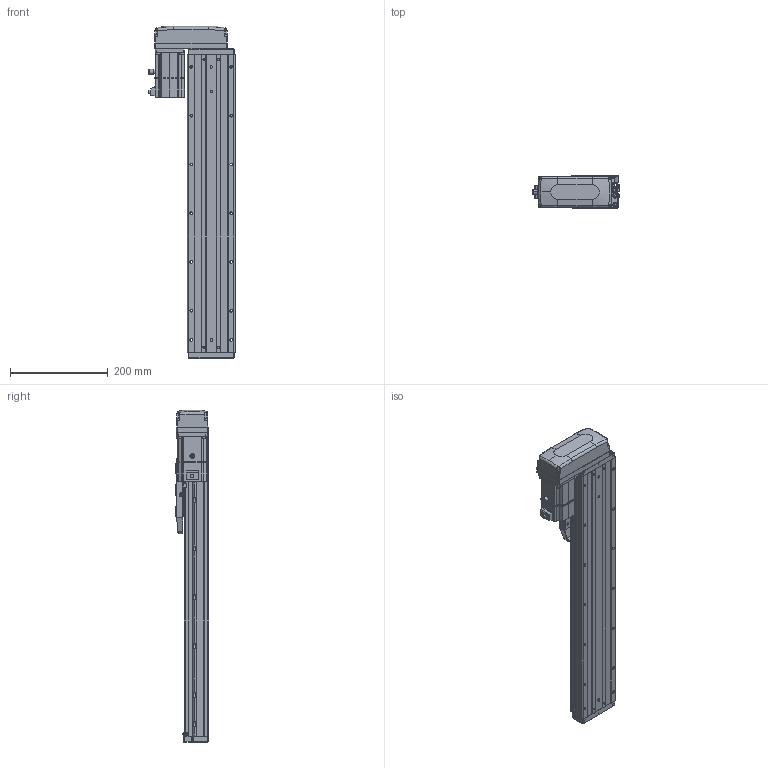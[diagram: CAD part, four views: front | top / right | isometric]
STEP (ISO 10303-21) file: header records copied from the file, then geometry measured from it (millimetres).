
FILE_DESCRIPTION (( 'STEP AP203' ), '1' );
FILE_NAME ('CTHA100-400-BL-M20-C4L.step', '2022-07-06T09:08:34', ( '微软用户' ), ( '微软中国' ), 'SwSTEP 2.0', 'SolidWorks 2020', '' );
FILE_SCHEMA (( 'CONFIG_CONTROL_DESIGN' ));
Length unit declared in the file: millimetre
Products named in the file (19): CTHA100-002; CTHA60-021; CTHA100-031; GBT77-2000 M3×3; CTHA86-030; KTHA100-001_610; KTHA100-004; GBT 70.1-M3℅6; GBT 70.3-M3℅6; KTHA100-005; GBT70.1 M5℅16; CTHA86-015-1_CTHA86-015-2; GB¨uT 70.2-M3¡Á5_M3¡Á6; CTHA60-016; CTHA86-033; EE_SX911P_R; _X2_4E0983F1_X0_200W_1; CTHA100-400-BL-M20-C4L; CTHA60-017
Assembly tree (64 placements, depth 2):
  CTHA100-400-BL-M20-C4L
    KTHA100-001_610
    KTHA100-004
    KTHA100-005
    GB¨uT 70.2-M3¡Á5_M3¡Á6  x10
    EE_SX911P_R  x3
    CTHA60-017  x3
    CTHA60-021  x2
    GBT77-2000 M3×3  x6
    GBT 70.1-M3℅6  x10
    GBT70.1 M5℅16  x14
    CTHA60-016  x2
    _X2_4E0983F1_X0_200W_1
    CTHA100-002
    CTHA100-031
    CTHA86-030  x2
    GBT 70.3-M3℅6  x4
    CTHA86-015-1_CTHA86-015-2
    CTHA86-033
Bounding box: 178.52 x 68 x 681 mm (x, y, z)
Volume: 3081035 mm3; surface area: 534453 mm2
Topology: 66 solids, 66 shells, 2649 faces, 6359 edges, 3940 vertices
Faces by surface type: plane 1380, cylinder 695, cone 351, torus 124, bspline 75, sphere 24
Entity records: 45346 total; most frequent: CARTESIAN_POINT 8923, DIRECTION 6984, ORIENTED_EDGE 6834, EDGE_CURVE 3417, AXIS2_PLACEMENT_3D 2373, LINE 2238, VECTOR 2238, VERTEX_POINT 2160
